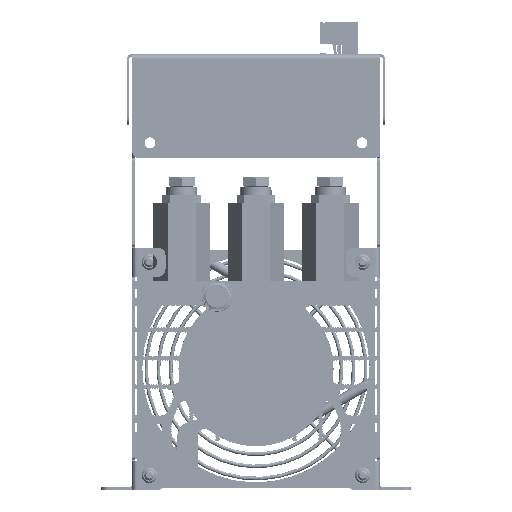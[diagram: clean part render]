
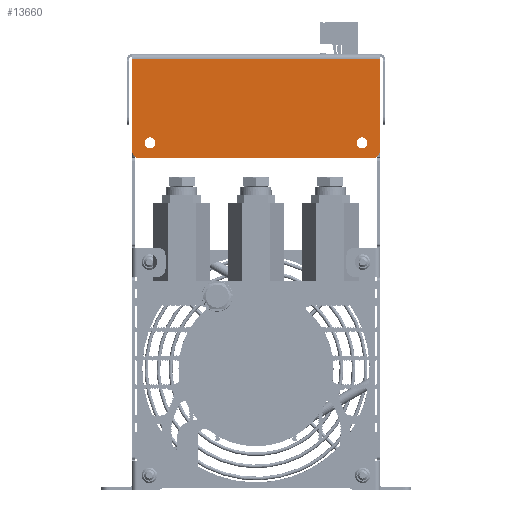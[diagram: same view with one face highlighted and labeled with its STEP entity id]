
A CAD part, front view. The second image highlights one B-rep face of the part: STEP entity #13660.
In plain terms, the highlighted planar face has unit normal (0, -1, 0).
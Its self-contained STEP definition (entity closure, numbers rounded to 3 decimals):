
#13660=ADVANCED_FACE('',(#64296,#64298,#64300),#64302,.F.);
#64296=FACE_BOUND('',#64297,.T.);
#64297=EDGE_LOOP('',(#114781,#114782,#114783,#114784,#114785,#114786));
#64298=FACE_BOUND('',#64299,.T.);
#64299=EDGE_LOOP('',(#114787));
#64300=FACE_BOUND('',#64301,.T.);
#64301=EDGE_LOOP('',(#114788));
#64302=PLANE('',#64303);
#64303=AXIS2_PLACEMENT_3D('',#64304,#64305,#64306);
#64304=CARTESIAN_POINT('',(0.,-97.,217.299));
#64305=DIRECTION('',(0.,1.,0.));
#64306=DIRECTION('',(1.,0.,0.));
#114781=ORIENTED_EDGE('',*,*,#138081,.F.);
#114782=ORIENTED_EDGE('',*,*,#138088,.F.);
#114783=ORIENTED_EDGE('',*,*,#138086,.F.);
#114784=ORIENTED_EDGE('',*,*,#138085,.F.);
#114785=ORIENTED_EDGE('',*,*,#137226,.T.);
#114786=ORIENTED_EDGE('',*,*,#138083,.F.);
#114787=ORIENTED_EDGE('',*,*,#138089,.T.);
#114788=ORIENTED_EDGE('',*,*,#138090,.T.);
#137226=EDGE_CURVE('',#171160,#171156,#171298,.T.);
#138081=EDGE_CURVE('',#172578,#172580,#172581,.F.);
#138083=EDGE_CURVE('',#172580,#171156,#172583,.T.);
#138085=EDGE_CURVE('',#171160,#172584,#172586,.T.);
#138086=EDGE_CURVE('',#172584,#172587,#172588,.F.);
#138088=EDGE_CURVE('',#172587,#172578,#172590,.T.);
#138089=EDGE_CURVE('',#172591,#172591,#172592,.F.);
#138090=EDGE_CURVE('',#172593,#172593,#172594,.F.);
#171156=VERTEX_POINT('',#253847);
#171160=VERTEX_POINT('',#253858);
#171298=LINE('',#254207,#254208);
#172578=VERTEX_POINT('',#257544);
#172580=VERTEX_POINT('',#257548);
#172581=CIRCLE('',#257549,3.);
#172583=LINE('',#257556,#257557);
#172584=VERTEX_POINT('',#257559);
#172586=LINE('',#257563,#257564);
#172587=VERTEX_POINT('',#257566);
#172588=CIRCLE('',#257567,3.);
#172590=LINE('',#257574,#257575);
#172591=VERTEX_POINT('',#257577);
#172592=CIRCLE('',#257578,2.1);
#172593=VERTEX_POINT('',#257582);
#172594=CIRCLE('',#257583,2.1);
#253847=CARTESIAN_POINT('',(-48.,-97.,120.1));
#253858=CARTESIAN_POINT('',(48.,-97.,120.1));
#254207=CARTESIAN_POINT('',(48.,-97.,120.1));
#254208=VECTOR('',#254209,1.);
#254209=DIRECTION('',(-1.,0.,0.));
#257544=CARTESIAN_POINT('',(-45.,-97.,81.8));
#257548=CARTESIAN_POINT('',(-48.,-97.,84.8));
#257549=AXIS2_PLACEMENT_3D('',#257550,#257551,#257552);
#257550=CARTESIAN_POINT('',(-45.,-97.,84.8));
#257551=DIRECTION('',(0.,-1.,0.));
#257552=DIRECTION('',(-1.,0.,0.));
#257556=CARTESIAN_POINT('',(-48.,-97.,84.8));
#257557=VECTOR('',#257558,1.);
#257558=DIRECTION('',(0.,0.,1.));
#257559=CARTESIAN_POINT('',(48.,-97.,84.8));
#257563=CARTESIAN_POINT('',(48.,-97.,120.1));
#257564=VECTOR('',#257565,1.);
#257565=DIRECTION('',(0.,0.,-1.));
#257566=CARTESIAN_POINT('',(45.,-97.,81.8));
#257567=AXIS2_PLACEMENT_3D('',#257568,#257569,#257570);
#257568=CARTESIAN_POINT('',(45.,-97.,84.8));
#257569=DIRECTION('',(0.,-1.,0.));
#257570=DIRECTION('',(0.,0.,-1.));
#257574=CARTESIAN_POINT('',(45.,-97.,81.8));
#257575=VECTOR('',#257576,1.);
#257576=DIRECTION('',(-1.,0.,0.));
#257577=CARTESIAN_POINT('',(-38.9,-97.,87.8));
#257578=AXIS2_PLACEMENT_3D('',#257579,#257580,#257581);
#257579=CARTESIAN_POINT('',(-41.,-97.,87.8));
#257580=DIRECTION('',(0.,-1.,0.));
#257581=DIRECTION('',(1.,0.,0.));
#257582=CARTESIAN_POINT('',(43.1,-97.,87.8));
#257583=AXIS2_PLACEMENT_3D('',#257584,#257585,#257586);
#257584=CARTESIAN_POINT('',(41.,-97.,87.8));
#257585=DIRECTION('',(0.,-1.,0.));
#257586=DIRECTION('',(1.,0.,0.));
